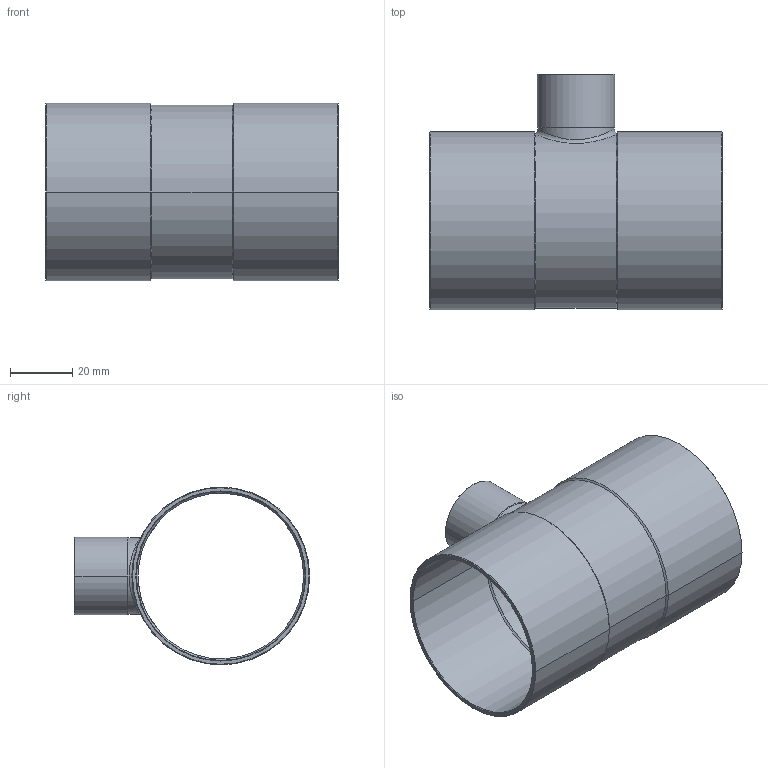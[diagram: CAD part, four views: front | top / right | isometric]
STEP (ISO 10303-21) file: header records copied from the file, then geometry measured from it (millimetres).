
FILE_DESCRIPTION((''),'2;1');
FILE_NAME('G:\Technics\CAD\Bauteile\15130\15130542254.stp','2005-11-02T10:19:54',('boden'),(''),'Autodesk Inventor 8','Autodesk Inventor 8','');
FILE_SCHEMA(('AUTOMOTIVE_DESIGN { 1 0 10303 214 1 1 1 1 }'));
Length unit declared in the file: millimetre
Products named in the file (1): 15130542254
Bounding box: 94 x 75.53 x 57.05 mm (x, y, z)
Volume: 25313.9 mm3; surface area: 35474.1 mm2
Topology: 1 solids, 1 shells, 49 faces, 112 edges, 64 vertices
Faces by surface type: cone 24, cylinder 20, plane 3, bspline 2
Entity records: 1790 total; most frequent: CARTESIAN_POINT 669, DIRECTION 238, ORIENTED_EDGE 224, EDGE_CURVE 112, AXIS2_PLACEMENT_3D 98, VERTEX_POINT 64, EDGE_LOOP 52, CIRCLE 50
